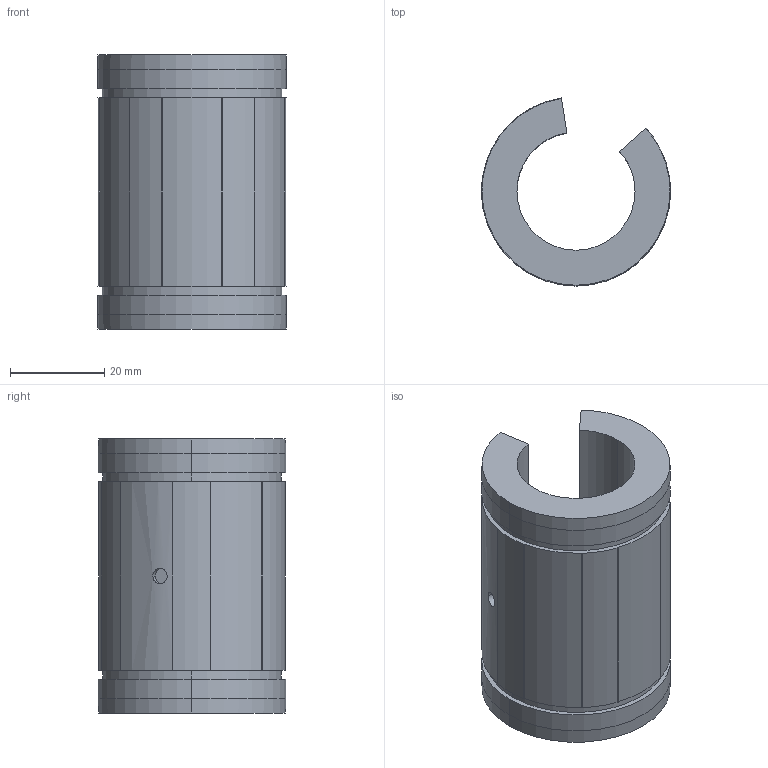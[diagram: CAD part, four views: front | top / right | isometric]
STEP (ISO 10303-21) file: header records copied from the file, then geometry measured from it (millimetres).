
FILE_DESCRIPTION((''),'2;1');
FILE_NAME('C:\Documents and Settings\ｿﾀﾀ蠑ｷ1\ｹﾙﾅﾁ ﾈｭｸ饅\ｺﾎﾇｰﾆﾄﾀﾏ\ﾁｦﾇｰ\LMES__UUOP\LMES25UUOP.stp','2005-06-15T14:07:51',('ｿﾀﾀ蠑ｷ1'),(''),'Autodesk Inventor 9','Autodesk Inventor 9','');
FILE_SCHEMA(('AUTOMOTIVE_DESIGN { 1 0 10303 214 1 1 1 1 }'));
Length unit declared in the file: millimetre
Products named in the file (1): LMES__OP
Bounding box: 40 x 39.76 x 58 mm (x, y, z)
Volume: 36683.6 mm3; surface area: 12502.6 mm2
Topology: 1 solids, 1 shells, 53 faces, 146 edges, 96 vertices
Faces by surface type: cylinder 28, plane 19, cone 6
Entity records: 1761 total; most frequent: CARTESIAN_POINT 330, DIRECTION 312, ORIENTED_EDGE 292, EDGE_CURVE 146, AXIS2_PLACEMENT_3D 114, VERTEX_POINT 96, VECTOR 84, LINE 84
